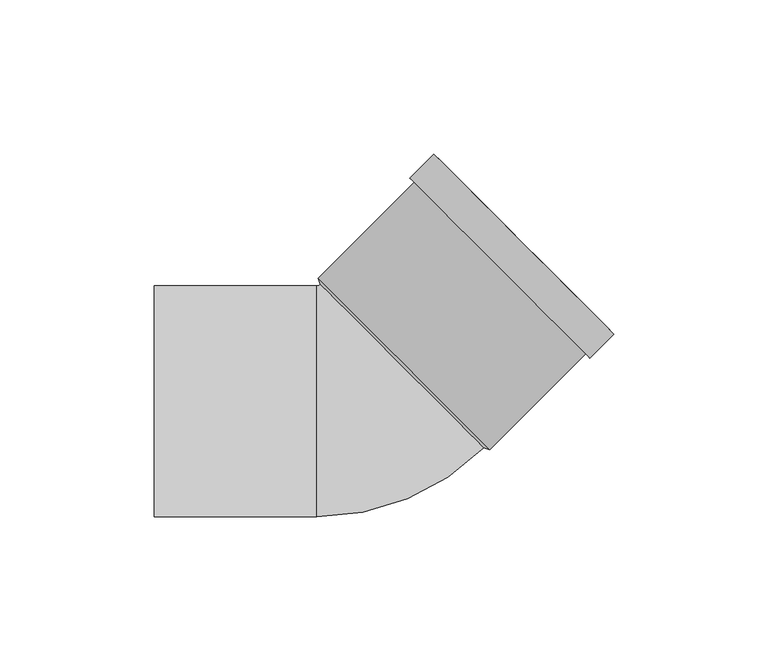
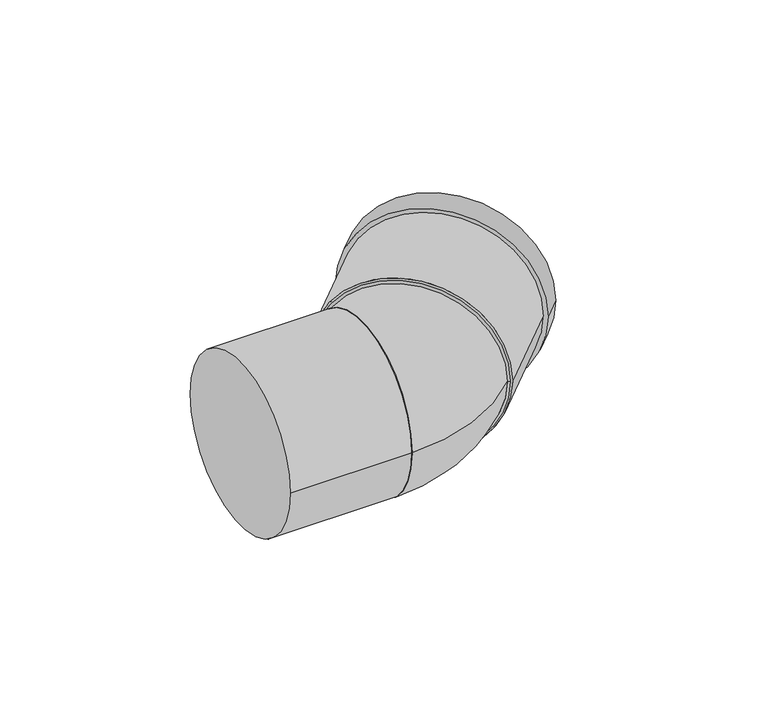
"""IFC4 building model written with IfcOpenShell, lengths in millimetres: pipe fitting geometry, Superdrain HT bend : Superdrain HT Bend."""

from ifc_helpers import new_model, si_unit, point, frame, origin, origin_2d, place, context, project, spatial, polyline, circle_curve, ellipse_curve, trimmed, segment, composite_curve, outline, extrude, source, transform, mapped, element, save
from ifc_brep_helpers import plane_surface, revolved_surface, advanced_brep


def pipe_fitting_87851de1(model_context):
    return source(origin(), model_context, "Body", "SolidModel", [
        advanced_brep(
        [(37.9716341, -15.0613744, 0.0), (-15.0613744, 37.9716341, 0.0), (-16.2, -37.5, 0.0), (-16.2, 37.5, 0.0)],
        [
            (0, 1, circle_curve(frame((11.4551299, 11.4551299, 0.0), z_axis=(0.7071067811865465, 0.7071067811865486, 0.0), x_axis=(-0.7071067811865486, 0.7071067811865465, 0.0)), 37.5)),
            (1, 0, circle_curve(frame((11.4551299, 11.4551299, 0.0), z_axis=(0.707106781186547, 0.707106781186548, 0.0), x_axis=(-0.707106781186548, 0.707106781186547, 0.0)), 37.5)),
            (2, 3, circle_curve(frame((-16.2, 0.0, 0.0), z_axis=(-1.0, 0.0, 0.0), x_axis=(0.0, 1.0, 0.0)), 37.5)),
            (3, 2, circle_curve(frame((-16.2, 0.0, 0.0), z_axis=(-1.0, 0.0, 0.0), x_axis=(0.0, 1.0, 0.0)), 37.5)),
            (3, 1, circle_curve(frame((-16.2, 39.1102597, 0.0), z_axis=(0.0, 0.0, 1.0), x_axis=(1.0, 0.0, 0.0)), 1.6102597)),
            (0, 2, circle_curve(frame((-16.2, 39.1102597, 0.0), z_axis=(0.0, 0.0, -1.0), x_axis=(1.0, 0.0, 0.0)), 76.6102597)),
        ],
        [
            plane_surface(frame((11.4551299, 11.4551299, 0.0), z_axis=(0.7071067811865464, 0.7071067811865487, 0.0), x_axis=(0.0, 0.0, -1.0))),
            plane_surface(frame((-16.2, 0.0, 0.0), z_axis=(-1.0, 0.0, 0.0), x_axis=(0.0, 0.0, -1.0))),
            revolved_surface(trimmed(ellipse_curve(frame((22.9102597, 39.1102597, 0.0), z_axis=(0.0, -1.0, 0.0), x_axis=(-1.0, 0.0, 0.0)), 37.5, 37.5), [point((-14.5897403, 39.1102597, 0.0))], [point((60.4102597, 39.1102597, 0.0))], True, "CARTESIAN"), (-16.2, 39.1102597, 0.0), (0.0, 0.0, 1.0)),
            revolved_surface(trimmed(ellipse_curve(frame((22.9102597, 39.1102597, 0.0), z_axis=(0.0, -1.0, 0.0), x_axis=(-1.0, 0.0, 0.0)), 37.5, 37.5), [point((60.4102597, 39.1102597, 0.0))], [point((-14.5897403, 39.1102597, 0.0))], True, "CARTESIAN"), (-16.2, 39.1102597, 0.0), (0.0, 0.0, 1.0)),
        ],
        [
            (0, [[1, 2]]),
            (1, [[3, 4]]),
            (2, [[-4, 5, -1, 6]]),
            (3, [[-3, -6, -2, -5]]),
        ],
    ),
        extrude(outline(composite_curve([segment(trimmed(circle_curve(origin_2d(), 39.375), [point((0.0, 39.375))], [point((0.0, -39.375))], False, "CARTESIAN"), True, "CONTINUOUS"), segment(trimmed(circle_curve(origin_2d(), 39.375), [point((0.0, -39.375))], [point((0.0, 39.375))], False, "CARTESIAN"), True, "CONTINUOUS")], self_intersect=False), holes=[composite_curve([segment(trimmed(circle_curve(origin_2d(), 37.5), [point((0.0, 37.5))], [point((0.0, -37.5))], True, "CARTESIAN"), True, "CONTINUOUS"), segment(trimmed(circle_curve(origin_2d(), 37.5), [point((0.0, -37.5))], [point((0.0, 37.5))], True, "CARTESIAN"), True, "CONTINUOUS")], self_intersect=False)]), frame((12.1622366, 12.1622366, 0.0), z_axis=(0.7071067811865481, 0.707106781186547, 0.0), x_axis=(0.0, 0.0, 1.0)), (0.0, 0.0, 1.0), 55.0),
        extrude(outline(composite_curve([segment(trimmed(circle_curve(origin_2d(), 41.34375), [point((0.0, -41.34375))], [point((0.0, 41.34375))], False, "CARTESIAN"), True, "CONTINUOUS"), segment(trimmed(circle_curve(origin_2d(), 41.34375), [point((0.0, 41.34375))], [point((0.0, -41.34375))], False, "CARTESIAN"), True, "CONTINUOUS")], self_intersect=False), holes=[composite_curve([segment(trimmed(circle_curve(origin_2d(), 37.5), [point((0.0, -37.5))], [point((0.0, 37.5))], True, "CARTESIAN"), True, "CONTINUOUS"), segment(trimmed(circle_curve(origin_2d(), 37.5), [point((0.0, 37.5))], [point((0.0, -37.5))], True, "CARTESIAN"), True, "CONTINUOUS")], self_intersect=False)]), frame((43.274935, 43.274935, 0.0), z_axis=(0.707106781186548, 0.7071067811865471, 0.0), x_axis=(0.0, 0.0, 1.0)), (0.0, 0.0, 1.0), 11.0),
        advanced_brep(
        [(40.0045661, -15.6800929, 0.0), (-15.6800929, 40.0045661, 0.0), (37.9716341, -15.0613744, 0.0), (-15.0613744, 37.9716341, 0.0)],
        [
            (0, 1, circle_curve(frame((12.1622366, 12.1622366, 0.0), z_axis=(0.7071067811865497, 0.7071067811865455, 0.0), x_axis=(0.7071067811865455, -0.7071067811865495, 0.0)), 39.375)),
            (1, 0, circle_curve(frame((12.1622366, 12.1622366, 0.0), z_axis=(0.7071067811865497, 0.7071067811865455, 0.0), x_axis=(-0.7071067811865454, 0.7071067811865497, 0.0)), 39.375)),
            (2, 3, circle_curve(frame((11.4551299, 11.4551299, 0.0), z_axis=(-0.7071067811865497, -0.7071067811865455, 0.0), x_axis=(-0.7071067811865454, 0.7071067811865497, 0.0)), 37.5)),
            (3, 2, circle_curve(frame((11.4551299, 11.4551299, 0.0), z_axis=(-0.7071067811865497, -0.7071067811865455, 0.0), x_axis=(0.7071067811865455, -0.7071067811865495, 0.0)), 37.5)),
            (3, 1),
            (0, 2),
        ],
        [
            plane_surface(frame((12.1622366, 12.1622366, 0.0), z_axis=(0.7071067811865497, 0.7071067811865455, 0.0), x_axis=(0.0, 0.0, -1.0))),
            plane_surface(frame((11.4551299, 11.4551299, 0.0), z_axis=(-0.7071067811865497, -0.7071067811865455, 0.0), x_axis=(0.0, 0.0, -1.0))),
            revolved_surface(polyline([(-15.061374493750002, 37.971634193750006, 0.0), (-15.680092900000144, 40.004566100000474, 0.0)]), (-2.6870058, -2.6870058, 0.0), (0.7071067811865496, 0.7071067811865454, 0.0)),
            revolved_surface(polyline([(37.97163419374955, -15.061374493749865, 0.0), (40.0045661, -15.6800929, 0.0)]), (-2.6870058, -2.6870058, 0.0), (0.7071067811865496, 0.7071067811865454, 0.0)),
        ],
        [
            (0, [[1, 2]]),
            (1, [[3, 4]]),
            (2, [[-4, 5, -1, 6]]),
            (3, [[-3, -6, -2, -5]]),
        ],
    ),
        extrude(outline(composite_curve([segment(trimmed(circle_curve(origin_2d(), 37.5), [point((-37.5, 0.0))], [point((37.5, 0.0))], False, "CARTESIAN"), True, "CONTINUOUS"), segment(trimmed(circle_curve(origin_2d(), 37.5), [point((37.5, 0.0))], [point((-37.5, 0.0))], False, "CARTESIAN"), True, "CONTINUOUS")], self_intersect=False)), frame((-69.0, 0.0, 0.0), z_axis=(1.0, 0.0, 0.0), x_axis=(0.0, 1.0, 0.0)), (0.0, 0.0, 1.0), 52.8),
    ])


if __name__ == "__main__":
    model = new_model("IFC4")
    model_context = context("Model", 3, world=origin())
    ifc_project = project(units=[si_unit("LENGTHUNIT", "METRE", prefix="MILLI")], contexts=[model_context])
    site = spatial("IfcSite", under=ifc_project)
    building = spatial("IfcBuilding", under=site)
    placement = place(None, origin())
    pipe_fitting_shape = pipe_fitting_87851de1(model_context)
    element("IfcPipeFitting", 1, ObjectType="Superdrain HT bend : Superdrain HT Bend", at=placement, inside=building, context=model_context, shape_type="MappedRepresentation", body=[
        mapped(pipe_fitting_shape, transform((0.0, 0.0, 0.0), x_axis=(1.0, 0.0, 0.0), y_axis=(0.0, 1.0, 0.0), z_axis=(0.0, 0.0, 1.0))),
    ])
    save(model, "model.ifc")
